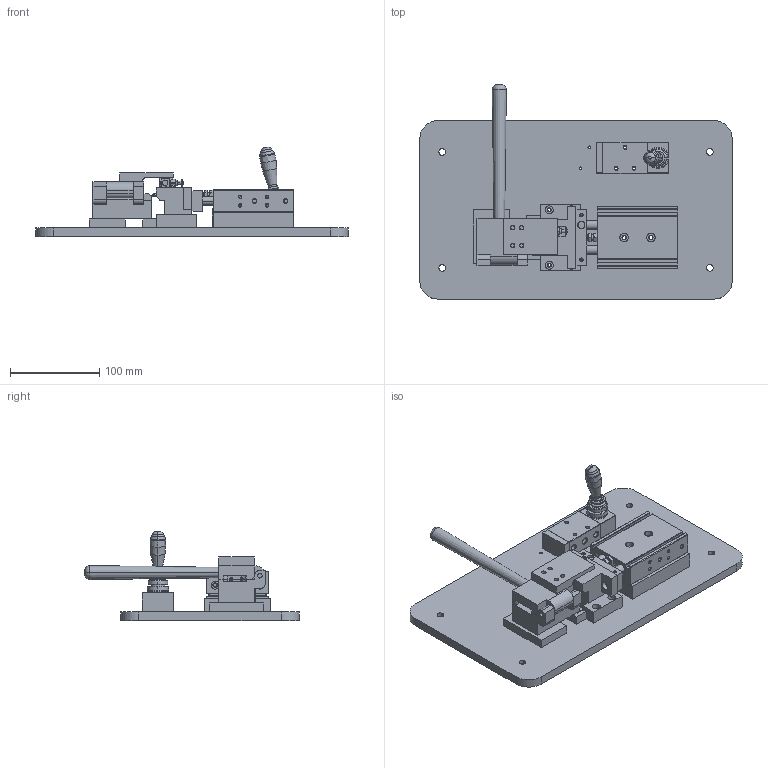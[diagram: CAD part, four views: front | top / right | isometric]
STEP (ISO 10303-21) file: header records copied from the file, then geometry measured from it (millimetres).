
FILE_DESCRIPTION(('CATIA V5 STEP Exchange'),'2;1');
FILE_NAME('E:\王迁\03-2021年项目\00-改善类\插管工装-2020.11.28\1.0升降阀插接治具图纸资料\1.0升降阀治具方案.stp','2021-03-12T01:45:06+00:00',('none'),('none'),'CATIA Version 5 Release 20 GA (IN-10)','CATIA V5 STEP AP203','none');
FILE_SCHEMA(('CONFIG_CONTROL_DESIGN'));
Length unit declared in the file: millimetre
Products named in the file (3): 产品1.2; TR20X15S(0)+(); 4H21006(PA)
Assembly tree (19 placements, depth 3):
  产品1.2
    #58
    #293
    #2628  x2
    #3151
    TR20X15S(0)+()
      #3594
      #10430
    #12944
    4H21006(PA)
      #13257
      #13280
    #17347
    #40166
    #41973
    #43353
    #44793
    #45716
    #46300
Bounding box: 350 x 240 x 100.34 mm (x, y, z)
Volume: 1271593.2 mm3; surface area: 317028.9 mm2
Topology: 25 solids, 25 shells, 1384 faces, 3772 edges, 2512 vertices
Faces by surface type: plane 583, cylinder 529, cone 210, torus 42, bspline 10, sphere 8, revolution 2
Entity records: 46723 total; most frequent: CARTESIAN_POINT 13138, ORIENTED_EDGE 7404, DIRECTION 5668, EDGE_CURVE 3702, AXIS2_PLACEMENT_3D 2615, VERTEX_POINT 2484, VECTOR 1781, LINE 1781
